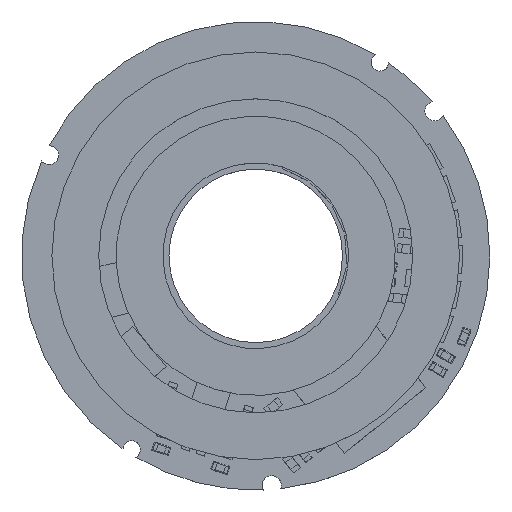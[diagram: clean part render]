
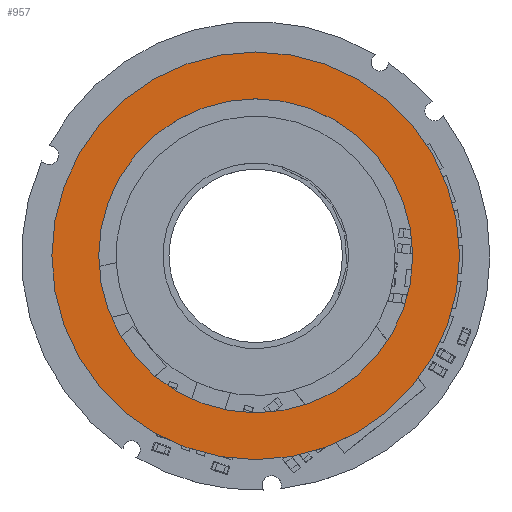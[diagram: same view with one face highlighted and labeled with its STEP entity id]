
A CAD part, top view. The second image highlights one B-rep face of the part: STEP entity #957.
In plain terms, the highlighted planar face has unit normal (0, 0, 1).
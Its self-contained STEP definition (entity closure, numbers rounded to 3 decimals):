
#868=CARTESIAN_POINT('',(0.,0.,12.1));
#869=DIRECTION('',(0.,0.,-1.));
#870=DIRECTION('',(-1.,0.,0.));
#871=AXIS2_PLACEMENT_3D('',#868,#869,#870);
#873=CARTESIAN_POINT('',(0.,0.,12.1));
#874=DIRECTION('',(0.,0.,-1.));
#875=DIRECTION('',(1.,0.,0.));
#876=AXIS2_PLACEMENT_3D('',#873,#874,#875);
#878=CARTESIAN_POINT('',(0.,0.,12.1));
#879=DIRECTION('',(0.,0.,1.));
#880=DIRECTION('',(-1.,0.,0.));
#881=AXIS2_PLACEMENT_3D('',#878,#879,#880);
#883=CARTESIAN_POINT('',(0.,0.,12.1));
#884=DIRECTION('',(0.,0.,1.));
#885=DIRECTION('',(1.,0.,0.));
#886=AXIS2_PLACEMENT_3D('',#883,#884,#885);
#924=CARTESIAN_POINT('',(-11.75,0.,12.1));
#925=CARTESIAN_POINT('',(11.75,0.,12.1));
#926=VERTEX_POINT('',#924);
#927=VERTEX_POINT('',#925);
#928=CARTESIAN_POINT('',(-9.05,0.,12.1));
#929=CARTESIAN_POINT('',(9.05,0.,12.1));
#930=VERTEX_POINT('',#928);
#931=VERTEX_POINT('',#929);
#940=CARTESIAN_POINT('',(0.,0.,12.1));
#941=DIRECTION('',(0.,0.,1.));
#942=DIRECTION('',(1.,0.,0.));
#943=AXIS2_PLACEMENT_3D('',#940,#941,#942);
#944=PLANE('',#943);
#946=ORIENTED_EDGE('',*,*,#945,.T.);
#948=ORIENTED_EDGE('',*,*,#947,.T.);
#949=EDGE_LOOP('',(#946,#948));
#950=FACE_OUTER_BOUND('',#949,.F.);
#952=ORIENTED_EDGE('',*,*,#951,.T.);
#954=ORIENTED_EDGE('',*,*,#953,.T.);
#955=EDGE_LOOP('',(#952,#954));
#956=FACE_BOUND('',#955,.F.);
#957=ADVANCED_FACE('',(#950,#956),#944,.T.);
#872=CIRCLE('',#871,11.75);
#877=CIRCLE('',#876,11.75);
#882=CIRCLE('',#881,9.05);
#887=CIRCLE('',#886,9.05);
#945=EDGE_CURVE('',#926,#927,#872,.T.);
#947=EDGE_CURVE('',#927,#926,#877,.T.);
#951=EDGE_CURVE('',#930,#931,#882,.T.);
#953=EDGE_CURVE('',#931,#930,#887,.T.);
